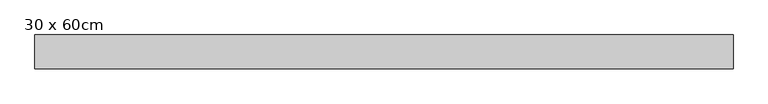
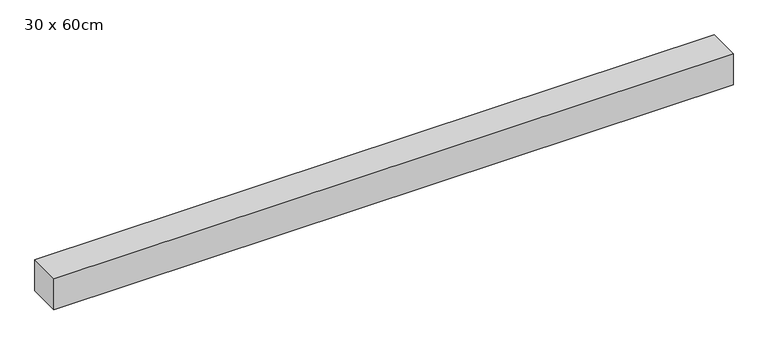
"""IFC4 building model written with IfcOpenShell, lengths in millimetres: member geometry, 混凝土樑-矩形 : 30 x 60cm."""

import ifcopenshell
import ifcopenshell.guid

model = None  # the IFC model being written
_history = None  # IfcOwnerHistory: only IFC2X3 demands one
_inside = {}  # id of a spatial element -> (the spatial element, [elements in it])
_under = {}  # id of a project, library or spatial element -> (it, [spatial elements below it])
_declared = {}  # id of a project -> (the project, [libraries it declares])
_typed = {}  # id of a type object -> (the type object, [elements of that type])
_made_of = {}  # id of a material, layer set ... -> (it, [elements and type objects made of it])


def new_model(schema):
    """Start an empty IFC model of exactly this schema.

    Asked for "IFC4X3", IfcOpenShell would pick the latest addendum, in which some entities
    have other attributes; the version numbers below select the first issue.
    IFC2X3 requires an IfcOwnerHistory on every rooted entity: one is made here for all.
    """
    global model, _history
    if schema == "IFC4X3":
        model = ifcopenshell.file(schema_version=(4, 3, 0, 0))
    else:
        model = ifcopenshell.file(schema=schema)
    _inside.clear()
    _under.clear()
    _declared.clear()
    _typed.clear()
    _made_of.clear()
    _history = None
    if model.schema == "IFC2X3":
        org = make("IfcOrganization", Name="unknown")
        user = make(
            "IfcPersonAndOrganization",
            ThePerson=make("IfcPerson", FamilyName="unknown"),
            TheOrganization=org,
        )
        app = make(
            "IfcApplication",
            ApplicationDeveloper=org,
            Version="unknown",
            ApplicationFullName="unknown",
            ApplicationIdentifier="unknown",
        )
        _history = make(
            "IfcOwnerHistory",
            OwningUser=user,
            OwningApplication=app,
            ChangeAction="ADDED",
            CreationDate=0,
        )
    return model


def make(cls, **values):
    """One entity of the class cls with the attributes given. An attribute that is None is left unset."""
    return model.create_entity(
        cls, **{name: value for name, value in values.items() if value is not None}
    )


def rooted(cls, **values):
    """An entity with a GlobalId (a new one), such as an element, a storey or a relation."""
    return make(cls, GlobalId=ifcopenshell.guid.new(), OwnerHistory=_history, **values)


def si_unit(unit_type, name, prefix=None):
    """IfcSIUnit, for example si_unit("LENGTHUNIT", "METRE", prefix="MILLI")."""
    return make("IfcSIUnit", UnitType=unit_type, Prefix=prefix, Name=name)


def assignment(units):
    """IfcUnitAssignment: the units of a project."""
    return None if units is None else make("IfcUnitAssignment", Units=units)


def point(xyz):
    """IfcCartesianPoint."""
    return None if xyz is None else make("IfcCartesianPoint", Coordinates=xyz)


def direction(xyz):
    """IfcDirection."""
    return None if xyz is None else make("IfcDirection", DirectionRatios=xyz)


def frame(location, z_axis=None, x_axis=None):
    """IfcAxis2Placement3D, a coordinate frame: its origin and axes. An axis left out is left unset."""
    return make(
        "IfcAxis2Placement3D",
        Location=point(location),
        Axis=direction(z_axis),
        RefDirection=direction(x_axis),
    )


def origin():
    """The frame at (0, 0, 0) with its axes left unset."""
    return frame((0.0, 0.0, 0.0))


def place(relative_to, where):
    """IfcLocalPlacement: puts the frame where relative to a parent placement (None: the world)."""
    return make(
        "IfcLocalPlacement", PlacementRelTo=relative_to, RelativePlacement=where
    )


def context(
    kind, dimensions, precision=None, world=None, true_north=None, identifier=None
):
    """IfcGeometricRepresentationContext, for example the 3D "Model" context."""
    return make(
        "IfcGeometricRepresentationContext",
        ContextIdentifier=identifier,
        ContextType=kind,
        CoordinateSpaceDimension=dimensions,
        Precision=precision,
        WorldCoordinateSystem=world,
        TrueNorth=true_north,
    )


def project(units=None, contexts=None):
    """IfcProject with its units and contexts."""
    return rooted(
        "IfcProject",
        Name="project",
        RepresentationContexts=contexts,
        UnitsInContext=assignment(units),
    )


def spatial(cls, under=None, at=None, **own):
    """A site, building, storey or space (cls), placed at a placement, below another one or the project."""
    s = rooted(cls, ObjectPlacement=at, **own)
    if under is not None:
        _under.setdefault(under.id(), (under, []))[1].append(s)
    return s


def polyline(points):
    """IfcPolyline through the points."""
    return make("IfcPolyline", Points=[point(p) for p in points])


def outline(outer, holes=None, kind="AREA"):
    """IfcArbitraryClosedProfileDef: a profile drawn as a closed curve; with holes, ...WithVoids."""
    if holes is None:
        return make("IfcArbitraryClosedProfileDef", ProfileType=kind, OuterCurve=outer)
    return make(
        "IfcArbitraryProfileDefWithVoids",
        ProfileType=kind,
        OuterCurve=outer,
        InnerCurves=holes,
    )


def extrude(swept, where, along, depth):
    """IfcExtrudedAreaSolid: the profile swept, set in the frame where, extruded along a direction by depth."""
    return make(
        "IfcExtrudedAreaSolid",
        SweptArea=swept,
        Position=where,
        ExtrudedDirection=direction(along),
        Depth=depth,
    )


def shape(context_of_items, identifier, shape_type, items):
    """IfcShapeRepresentation: the items that make up one representation, for example the "Body"."""
    return make(
        "IfcShapeRepresentation",
        ContextOfItems=context_of_items,
        RepresentationIdentifier=identifier,
        RepresentationType=shape_type,
        Items=items,
    )


def source(mapping_origin, context_of_items, identifier, shape_type, items):
    """IfcRepresentationMap: a shape defined once, which mapped items show again and again."""
    return make(
        "IfcRepresentationMap",
        MappingOrigin=mapping_origin,
        MappedRepresentation=shape(context_of_items, identifier, shape_type, items),
    )


def transform(
    local_origin,
    x_axis=None,
    y_axis=None,
    z_axis=None,
    scale=None,
    scale2=None,
    scale3=None,
    uniform=True,
):
    """IfcCartesianTransformationOperator3D, or its non-uniform kind. x_axis, y_axis, z_axis: its Axis1, 2, 3."""
    if uniform:
        return make(
            "IfcCartesianTransformationOperator3D",
            Axis1=direction(x_axis),
            Axis2=direction(y_axis),
            LocalOrigin=point(local_origin),
            Scale=scale,
            Axis3=direction(z_axis),
        )
    return make(
        "IfcCartesianTransformationOperator3DnonUniform",
        Axis1=direction(x_axis),
        Axis2=direction(y_axis),
        LocalOrigin=point(local_origin),
        Scale=scale,
        Axis3=direction(z_axis),
        Scale2=scale2,
        Scale3=scale3,
    )


def mapped(mapping_source, mapping_target):
    """IfcMappedItem: shows the shape of a source again, moved by a transform."""
    return make(
        "IfcMappedItem", MappingSource=mapping_source, MappingTarget=mapping_target
    )


def made_of(thing, what):
    """Note that an element or type object is made of a material, layer set ...; save() writes the relation."""
    if what is not None:
        _made_of.setdefault(what.id(), (what, []))[1].append(thing)
    return thing


def element(
    cls,
    number,
    at=None,
    inside=None,
    cuts=None,
    type_object=None,
    material=None,
    context=None,
    identifier="Body",
    shape_type=None,
    held_by="IfcProductDefinitionShape",
    body=None,
    shapes=None,
    **own,
):
    """One element of the class cls, such as IfcWall. Its Tag is "e" and its number.

    at: its placement. inside: the storey or other place that contains it. cuts: it is an
    opening in that element (IfcRelVoidsElement). A single representation is given by context,
    identifier, shape_type and body (its items); several are given by shapes. held_by: the class
    of the entity that holds the representations. save() writes the other relations.
    """
    e = rooted(cls, Tag="e%d" % number, ObjectPlacement=at, **own)
    if body is not None:
        shapes = [shape(context, identifier, shape_type, body)]
    if shapes is not None:
        e.Representation = make(held_by, Representations=shapes)
    if inside is not None:
        _inside.setdefault(inside.id(), (inside, []))[1].append(e)
    if cuts is not None:
        rooted(
            "IfcRelVoidsElement", RelatingBuildingElement=cuts, RelatedOpeningElement=e
        )
    if type_object is not None:
        _typed.setdefault(type_object.id(), (type_object, []))[1].append(e)
    return made_of(e, material)


def aggregate(whole, parts):
    """IfcRelAggregates: a whole, such as a stair, and the parts it consists of."""
    return rooted("IfcRelAggregates", RelatingObject=whole, RelatedObjects=parts)


def save(model, path):
    """Write the relations noted so far, then the file.

    IfcRelAggregates (storeys below a building ...), IfcRelContainedInSpatialStructure (elements
    in a storey), IfcRelDefinesByType, IfcRelAssociatesMaterial and IfcRelDeclares: one each for
    every whole, place, type object, material and project.
    """
    for whole, parts in _under.values():
        aggregate(whole, parts)
    for where, things in _inside.values():
        rooted(
            "IfcRelContainedInSpatialStructure",
            RelatedElements=things,
            RelatingStructure=where,
        )
    for kind, things in _typed.values():
        rooted("IfcRelDefinesByType", RelatedObjects=things, RelatingType=kind)
    for what, things in _made_of.values():
        rooted("IfcRelAssociatesMaterial", RelatedObjects=things, RelatingMaterial=what)
    for by, libraries in _declared.values():
        rooted("IfcRelDeclares", RelatingContext=by, RelatedDefinitions=libraries)
    model.write(path)


def member_30_x_60cm_49b1b2a9(model_context):
    return source(origin(), model_context, "Body", "SweptSolid", [
        extrude(outline(polyline([(3101.3405293, -150.0), (-3101.3405293, -150.0), (-3101.3405293, 150.0), (3101.3405293, 150.0), (3101.3405293, -150.0)])), frame((0.0, 0.0, -150.0), z_axis=(0.0, 0.0, 1.0), x_axis=(1.0, 0.0, 0.0)), (0.0, 0.0, 1.0), 300.0),
    ])


if __name__ == "__main__":
    model = new_model("IFC4")
    model_context = context("Model", 3, world=origin())
    ifc_project = project(units=[si_unit("LENGTHUNIT", "METRE", prefix="MILLI")], contexts=[model_context])
    site = spatial("IfcSite", under=ifc_project)
    building = spatial("IfcBuilding", under=site)
    placement = place(None, origin())
    member_30_x_60cm_shape = member_30_x_60cm_49b1b2a9(model_context)
    element("IfcMember", 1, ObjectType="混凝土樑-矩形 : 30 x 60cm", at=placement, inside=building, context=model_context, shape_type="MappedRepresentation", body=[
        mapped(member_30_x_60cm_shape, transform((0.0, 0.0, 0.0), x_axis=(1.0, 0.0, 0.0), y_axis=(0.0, 1.0, 0.0), z_axis=(0.0, 0.0, 1.0))),
    ])
    save(model, "model.ifc")
